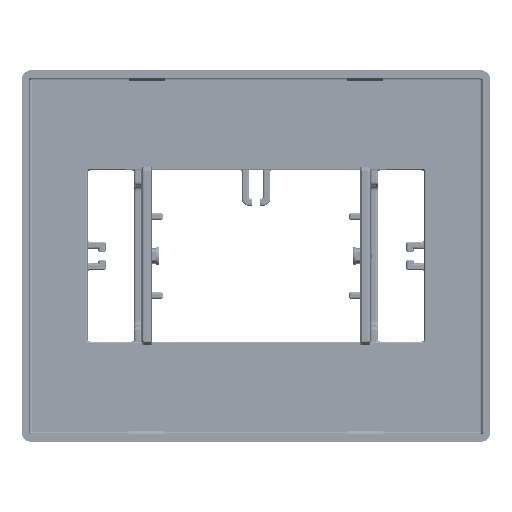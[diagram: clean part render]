
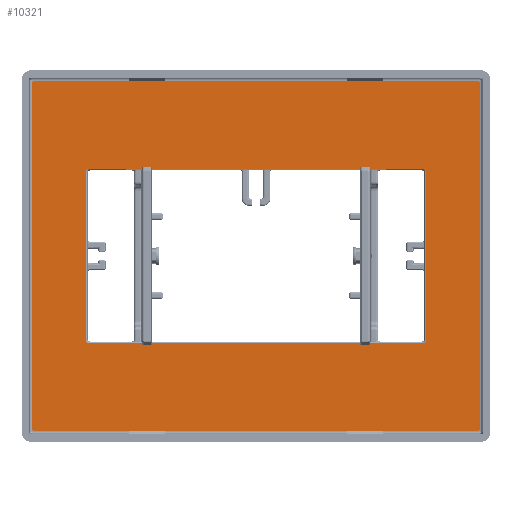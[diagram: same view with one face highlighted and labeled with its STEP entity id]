
A CAD part, front view. The second image highlights one B-rep face of the part: STEP entity #10321.
In plain terms, the highlighted planar face has unit normal (0, -1, 0).
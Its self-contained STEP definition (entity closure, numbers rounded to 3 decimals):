
#10008=CARTESIAN_POINT('',(62.,0.,-48.4));
#10009=DIRECTION('',(0.,-1.,0.));
#10010=DIRECTION('',(0.,0.,-1.));
#10011=AXIS2_PLACEMENT_3D('',#10008,#10009,#10010);
#10013=DIRECTION('',(-1.,0.,0.));
#10014=VECTOR('',#10013,124.);
#10015=CARTESIAN_POINT('',(62.,0.,-48.9));
#10016=LINE('',#10015,#10014);
#10017=CARTESIAN_POINT('',(-62.,0.,-48.4));
#10018=DIRECTION('',(0.,-1.,0.));
#10019=DIRECTION('',(-1.,0.,0.));
#10020=AXIS2_PLACEMENT_3D('',#10017,#10018,#10019);
#10022=DIRECTION('',(0.,0.,1.));
#10023=VECTOR('',#10022,96.8);
#10024=CARTESIAN_POINT('',(-62.5,0.,-48.4));
#10025=LINE('',#10024,#10023);
#10026=CARTESIAN_POINT('',(-62.,0.,48.4));
#10027=DIRECTION('',(0.,-1.,0.));
#10028=DIRECTION('',(0.,0.,1.));
#10029=AXIS2_PLACEMENT_3D('',#10026,#10027,#10028);
#10031=DIRECTION('',(1.,0.,0.));
#10032=VECTOR('',#10031,124.);
#10033=CARTESIAN_POINT('',(-62.,0.,48.9));
#10034=LINE('',#10033,#10032);
#10035=CARTESIAN_POINT('',(62.,0.,48.4));
#10036=DIRECTION('',(0.,-1.,0.));
#10037=DIRECTION('',(1.,0.,0.));
#10038=AXIS2_PLACEMENT_3D('',#10035,#10036,#10037);
#10040=DIRECTION('',(0.,0.,-1.));
#10041=VECTOR('',#10040,96.8);
#10042=CARTESIAN_POINT('',(62.5,0.,48.4));
#10043=LINE('',#10042,#10041);
#10044=DIRECTION('',(-1.,0.,0.));
#10045=VECTOR('',#10044,94.);
#10046=CARTESIAN_POINT('',(47.,0.,-24.25));
#10047=LINE('',#10046,#10045);
#10048=DIRECTION('',(0.,0.,-1.));
#10049=VECTOR('',#10048,47.5);
#10050=CARTESIAN_POINT('',(47.5,0.,23.75));
#10051=LINE('',#10050,#10049);
#10052=DIRECTION('',(1.,0.,0.));
#10053=VECTOR('',#10052,94.);
#10054=CARTESIAN_POINT('',(-47.,0.,24.25));
#10055=LINE('',#10054,#10053);
#10056=DIRECTION('',(0.,0.,1.));
#10057=VECTOR('',#10056,47.5);
#10058=CARTESIAN_POINT('',(-47.5,0.,-23.75));
#10059=LINE('',#10058,#10057);
#10157=CARTESIAN_POINT('',(47.,0.,-23.75));
#10158=DIRECTION('',(0.,1.,0.));
#10159=DIRECTION('',(1.,0.,0.));
#10160=AXIS2_PLACEMENT_3D('',#10157,#10158,#10159);
#10175=CARTESIAN_POINT('',(-47.,0.,-23.75));
#10176=DIRECTION('',(0.,1.,0.));
#10177=DIRECTION('',(0.,0.,-1.));
#10178=AXIS2_PLACEMENT_3D('',#10175,#10176,#10177);
#10193=CARTESIAN_POINT('',(-47.,0.,23.75));
#10194=DIRECTION('',(0.,1.,0.));
#10195=DIRECTION('',(-1.,0.,0.));
#10196=AXIS2_PLACEMENT_3D('',#10193,#10194,#10195);
#10211=CARTESIAN_POINT('',(47.,0.,23.75));
#10212=DIRECTION('',(0.,1.,0.));
#10213=DIRECTION('',(0.,0.,1.));
#10214=AXIS2_PLACEMENT_3D('',#10211,#10212,#10213);
#10216=CARTESIAN_POINT('',(62.,0.,-48.9));
#10217=CARTESIAN_POINT('',(62.5,0.,-48.4));
#10218=VERTEX_POINT('',#10216);
#10219=VERTEX_POINT('',#10217);
#10224=CARTESIAN_POINT('',(62.5,0.,48.4));
#10225=CARTESIAN_POINT('',(62.,0.,48.9));
#10226=VERTEX_POINT('',#10224);
#10227=VERTEX_POINT('',#10225);
#10232=CARTESIAN_POINT('',(-62.,0.,48.9));
#10233=CARTESIAN_POINT('',(-62.5,0.,48.4));
#10234=VERTEX_POINT('',#10232);
#10235=VERTEX_POINT('',#10233);
#10240=CARTESIAN_POINT('',(-62.5,0.,-48.4));
#10241=CARTESIAN_POINT('',(-62.,0.,-48.9));
#10242=VERTEX_POINT('',#10240);
#10243=VERTEX_POINT('',#10241);
#10249=CARTESIAN_POINT('',(-47.5,0.,-23.75));
#10251=VERTEX_POINT('',#10249);
#10253=CARTESIAN_POINT('',(-47.,0.,-24.25));
#10255=VERTEX_POINT('',#10253);
#10257=CARTESIAN_POINT('',(47.,0.,-24.25));
#10259=VERTEX_POINT('',#10257);
#10261=CARTESIAN_POINT('',(47.5,0.,-23.75));
#10263=VERTEX_POINT('',#10261);
#10265=CARTESIAN_POINT('',(47.5,0.,23.75));
#10267=VERTEX_POINT('',#10265);
#10269=CARTESIAN_POINT('',(47.,0.,24.25));
#10271=VERTEX_POINT('',#10269);
#10273=CARTESIAN_POINT('',(-47.,0.,24.25));
#10275=VERTEX_POINT('',#10273);
#10277=CARTESIAN_POINT('',(-47.5,0.,23.75));
#10279=VERTEX_POINT('',#10277);
#10280=CARTESIAN_POINT('',(0.,0.,0.));
#10281=DIRECTION('',(0.,1.,0.));
#10282=DIRECTION('',(1.,0.,0.));
#10283=AXIS2_PLACEMENT_3D('',#10280,#10281,#10282);
#10284=PLANE('',#10283);
#10286=ORIENTED_EDGE('',*,*,#10285,.F.);
#10288=ORIENTED_EDGE('',*,*,#10287,.T.);
#10290=ORIENTED_EDGE('',*,*,#10289,.F.);
#10292=ORIENTED_EDGE('',*,*,#10291,.T.);
#10294=ORIENTED_EDGE('',*,*,#10293,.F.);
#10296=ORIENTED_EDGE('',*,*,#10295,.T.);
#10298=ORIENTED_EDGE('',*,*,#10297,.F.);
#10300=ORIENTED_EDGE('',*,*,#10299,.T.);
#10301=EDGE_LOOP('',(#10286,#10288,#10290,#10292,#10294,#10296,#10298,#10300));
#10302=FACE_OUTER_BOUND('',#10301,.F.);
#10304=ORIENTED_EDGE('',*,*,#10303,.F.);
#10306=ORIENTED_EDGE('',*,*,#10305,.F.);
#10308=ORIENTED_EDGE('',*,*,#10307,.F.);
#10310=ORIENTED_EDGE('',*,*,#10309,.F.);
#10312=ORIENTED_EDGE('',*,*,#10311,.F.);
#10314=ORIENTED_EDGE('',*,*,#10313,.F.);
#10316=ORIENTED_EDGE('',*,*,#10315,.F.);
#10318=ORIENTED_EDGE('',*,*,#10317,.F.);
#10319=EDGE_LOOP('',(#10304,#10306,#10308,#10310,#10312,#10314,#10316,#10318));
#10320=FACE_BOUND('',#10319,.F.);
#10321=ADVANCED_FACE('',(#10302,#10320),#10284,.F.);
#10012=CIRCLE('',#10011,0.5);
#10021=CIRCLE('',#10020,0.5);
#10030=CIRCLE('',#10029,0.5);
#10039=CIRCLE('',#10038,0.5);
#10161=CIRCLE('',#10160,0.5);
#10179=CIRCLE('',#10178,0.5);
#10197=CIRCLE('',#10196,0.5);
#10215=CIRCLE('',#10214,0.5);
#10285=EDGE_CURVE('',#10218,#10219,#10012,.T.);
#10287=EDGE_CURVE('',#10218,#10243,#10016,.T.);
#10289=EDGE_CURVE('',#10242,#10243,#10021,.T.);
#10291=EDGE_CURVE('',#10242,#10235,#10025,.T.);
#10293=EDGE_CURVE('',#10234,#10235,#10030,.T.);
#10295=EDGE_CURVE('',#10234,#10227,#10034,.T.);
#10297=EDGE_CURVE('',#10226,#10227,#10039,.T.);
#10299=EDGE_CURVE('',#10226,#10219,#10043,.T.);
#10303=EDGE_CURVE('',#10259,#10255,#10047,.T.);
#10305=EDGE_CURVE('',#10263,#10259,#10161,.T.);
#10307=EDGE_CURVE('',#10267,#10263,#10051,.T.);
#10309=EDGE_CURVE('',#10271,#10267,#10215,.T.);
#10311=EDGE_CURVE('',#10275,#10271,#10055,.T.);
#10313=EDGE_CURVE('',#10279,#10275,#10197,.T.);
#10315=EDGE_CURVE('',#10251,#10279,#10059,.T.);
#10317=EDGE_CURVE('',#10255,#10251,#10179,.T.);
